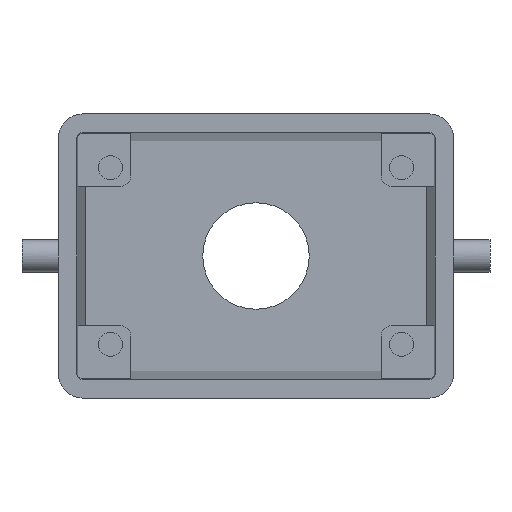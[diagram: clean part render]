
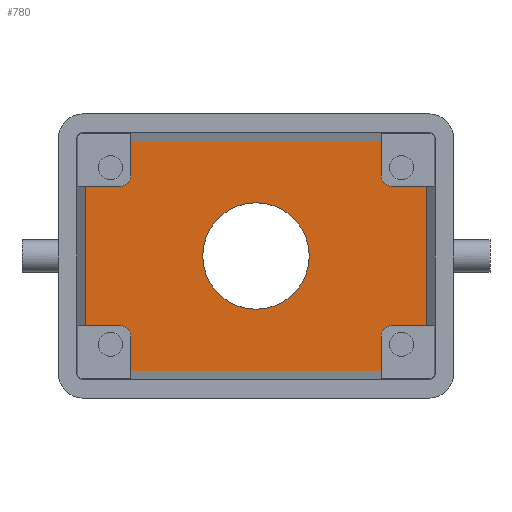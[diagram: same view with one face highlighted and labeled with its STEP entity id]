
A CAD part, front view. The second image highlights one B-rep face of the part: STEP entity #780.
In plain terms, the highlighted planar face has unit normal (0, -1, 0).
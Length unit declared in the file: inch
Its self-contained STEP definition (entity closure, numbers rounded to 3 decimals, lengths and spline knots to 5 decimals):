
#1 = VERTEX_POINT ( 'NONE', #2327 ) ;
#19 = VERTEX_POINT ( 'NONE', #2410 ) ;
#62 = EDGE_CURVE ( 'NONE', #1, #19, #1288, .T. ) ;
#437 = ORIENTED_EDGE ( 'NONE', *, *, #458, .T. ) ;
#438 = ORIENTED_EDGE ( 'NONE', *, *, #439, .F. ) ;
#439 = EDGE_CURVE ( 'NONE', #440, #456, #2748, .T. ) ;
#440 = VERTEX_POINT ( 'NONE', #2744 ) ;
#441 = ORIENTED_EDGE ( 'NONE', *, *, #442, .F. ) ;
#442 = EDGE_CURVE ( 'NONE', #443, #440, #2743, .T. ) ;
#443 = VERTEX_POINT ( 'NONE', #2738 ) ;
#444 = ORIENTED_EDGE ( 'NONE', *, *, #445, .F. ) ;
#445 = EDGE_CURVE ( 'NONE', #572, #443, #2736, .T. ) ;
#446 = ORIENTED_EDGE ( 'NONE', *, *, #571, .T. ) ;
#456 = VERTEX_POINT ( 'NONE', #2749 ) ;
#458 = EDGE_CURVE ( 'NONE', #459, #456, #2750, .T. ) ;
#459 = VERTEX_POINT ( 'NONE', #2803 ) ;
#569 = VERTEX_POINT ( 'NONE', #5792 ) ;
#571 = EDGE_CURVE ( 'NONE', #572, #569, #5791, .T. ) ;
#572 = VERTEX_POINT ( 'NONE', #5833 ) ;
#585 = EDGE_LOOP ( 'NONE', ( #586, #587 ) ) ;
#586 = ORIENTED_EDGE ( 'NONE', *, *, #62, .F. ) ;
#587 = ORIENTED_EDGE ( 'NONE', *, *, #745, .F. ) ;
#709 = VERTEX_POINT ( 'NONE', #3500 ) ;
#710 = ORIENTED_EDGE ( 'NONE', *, *, #748, .F. ) ;
#721 = EDGE_CURVE ( 'NONE', #722, #753, #3561, .T. ) ;
#722 = VERTEX_POINT ( 'NONE', #3553 ) ;
#723 = EDGE_CURVE ( 'NONE', #835, #769, #3519, .T. ) ;
#724 = ORIENTED_EDGE ( 'NONE', *, *, #834, .T. ) ;
#725 = ORIENTED_EDGE ( 'NONE', *, *, #726, .F. ) ;
#726 = EDGE_CURVE ( 'NONE', #760, #836, #3515, .T. ) ;
#727 = ORIENTED_EDGE ( 'NONE', *, *, #728, .F. ) ;
#728 = EDGE_CURVE ( 'NONE', #729, #569, #3626, .T. ) ;
#729 = VERTEX_POINT ( 'NONE', #3696 ) ;
#737 = EDGE_CURVE ( 'NONE', #738, #760, #3560, .T. ) ;
#738 = VERTEX_POINT ( 'NONE', #3555 ) ;
#743 = ORIENTED_EDGE ( 'NONE', *, *, #751, .T. ) ;
#744 = ORIENTED_EDGE ( 'NONE', *, *, #721, .F. ) ;
#745 = EDGE_CURVE ( 'NONE', #19, #1, #3547, .T. ) ;
#746 = ORIENTED_EDGE ( 'NONE', *, *, #747, .F. ) ;
#747 = EDGE_CURVE ( 'NONE', #752, #738, #3542, .T. ) ;
#748 = EDGE_CURVE ( 'NONE', #459, #709, #3538, .T. ) ;
#751 = EDGE_CURVE ( 'NONE', #752, #753, #3571, .T. ) ;
#752 = VERTEX_POINT ( 'NONE', #3567 ) ;
#753 = VERTEX_POINT ( 'NONE', #3566 ) ;
#760 = VERTEX_POINT ( 'NONE', #3656 ) ;
#761 = ORIENTED_EDGE ( 'NONE', *, *, #737, .F. ) ;
#767 = ORIENTED_EDGE ( 'NONE', *, *, #768, .F. ) ;
#768 = EDGE_CURVE ( 'NONE', #769, #729, #3651, .T. ) ;
#769 = VERTEX_POINT ( 'NONE', #3646 ) ;
#770 = ORIENTED_EDGE ( 'NONE', *, *, #723, .F. ) ;
#780 = ADVANCED_FACE ( 'NONE', ( #3536, #3535 ), #3576, .T. ) ;
#781 = EDGE_LOOP ( 'NONE', ( #727, #767, #770, #724, #725, #761, #746, #743, #744, #856, #710, #437, #438, #441, #444, #446 ) ) ;
#834 = EDGE_CURVE ( 'NONE', #835, #836, #3756, .T. ) ;
#835 = VERTEX_POINT ( 'NONE', #4046 ) ;
#836 = VERTEX_POINT ( 'NONE', #4045 ) ;
#856 = ORIENTED_EDGE ( 'NONE', *, *, #857, .F. ) ;
#857 = EDGE_CURVE ( 'NONE', #709, #722, #4101, .T. ) ;
#1203 = DIRECTION ( 'NONE',  ( 0., 0., -1. ) ) ;
#1204 = DIRECTION ( 'NONE',  ( 0., -1., 0. ) ) ;
#1205 = CARTESIAN_POINT ( 'NONE',  ( 0., 1.44567, 0. ) ) ;
#1206 = AXIS2_PLACEMENT_3D ( 'NONE', #1205, #1204, #1203 ) ;
#1288 = CIRCLE ( 'NONE', #1206, 0.32 ) ;
#2327 = CARTESIAN_POINT ( 'NONE',  ( 0., 1.44567, 0.32 ) ) ;
#2410 = CARTESIAN_POINT ( 'NONE',  ( 0., 1.44567, -0.32 ) ) ;
#2733 = DIRECTION ( 'NONE',  ( 1., 0., 0. ) ) ;
#2734 = VECTOR ( 'NONE', #2733, 39.37008 ) ;
#2735 = CARTESIAN_POINT ( 'NONE',  ( -1.039, 1.44567, 0.419 ) ) ;
#2736 = LINE ( 'NONE', #2735, #2734 ) ;
#2738 = CARTESIAN_POINT ( 'NONE',  ( -0.8155, 1.44567, 0.419 ) ) ;
#2739 = DIRECTION ( 'NONE',  ( 0., 0., 1. ) ) ;
#2740 = DIRECTION ( 'NONE',  ( 0., -1., 0. ) ) ;
#2741 = CARTESIAN_POINT ( 'NONE',  ( -0.8155, 1.44567, 0.4815 ) ) ;
#2742 = AXIS2_PLACEMENT_3D ( 'NONE', #2741, #2740, #2739 ) ;
#2743 = CIRCLE ( 'NONE', #2742, 0.0625 ) ;
#2744 = CARTESIAN_POINT ( 'NONE',  ( -0.753, 1.44567, 0.4815 ) ) ;
#2745 = DIRECTION ( 'NONE',  ( 0., 0., 1. ) ) ;
#2746 = VECTOR ( 'NONE', #2745, 39.37008 ) ;
#2747 = CARTESIAN_POINT ( 'NONE',  ( -0.753, 1.44567, 0.744 ) ) ;
#2748 = LINE ( 'NONE', #2747, #2746 ) ;
#2749 = CARTESIAN_POINT ( 'NONE',  ( -0.753, 1.44567, 0.69352 ) ) ;
#2750 = LINE ( 'NONE', #2806, #2805 ) ;
#2803 = CARTESIAN_POINT ( 'NONE',  ( 0.753, 1.44567, 0.69352 ) ) ;
#2804 = DIRECTION ( 'NONE',  ( -1., 0., 0. ) ) ;
#2805 = VECTOR ( 'NONE', #2804, 39.37008 ) ;
#2806 = CARTESIAN_POINT ( 'NONE',  ( -1.039, 1.44567, 0.69352 ) ) ;
#3500 = CARTESIAN_POINT ( 'NONE',  ( 0.753, 1.44567, 0.4815 ) ) ;
#3512 = DIRECTION ( 'NONE',  ( 0., 0., -1. ) ) ;
#3513 = VECTOR ( 'NONE', #3512, 39.37008 ) ;
#3514 = CARTESIAN_POINT ( 'NONE',  ( 0.753, 1.44567, -0.744 ) ) ;
#3515 = LINE ( 'NONE', #3514, #3513 ) ;
#3516 = DIRECTION ( 'NONE',  ( 0., 0., 1. ) ) ;
#3517 = VECTOR ( 'NONE', #3516, 39.37008 ) ;
#3518 = CARTESIAN_POINT ( 'NONE',  ( -0.753, 1.44567, -0.705 ) ) ;
#3519 = LINE ( 'NONE', #3518, #3517 ) ;
#3535 = FACE_BOUND ( 'NONE', #585, .T. ) ;
#3536 = FACE_OUTER_BOUND ( 'NONE', #781, .T. ) ;
#3538 = LINE ( 'NONE', #3574, #3573 ) ;
#3539 = DIRECTION ( 'NONE',  ( -1., 0., 0. ) ) ;
#3540 = VECTOR ( 'NONE', #3539, 39.37008 ) ;
#3541 = CARTESIAN_POINT ( 'NONE',  ( -1.039, 1.44567, -0.419 ) ) ;
#3542 = LINE ( 'NONE', #3541, #3540 ) ;
#3543 = DIRECTION ( 'NONE',  ( 0., 0., -1. ) ) ;
#3544 = DIRECTION ( 'NONE',  ( 0., -1., 0. ) ) ;
#3545 = CARTESIAN_POINT ( 'NONE',  ( 0., 1.44567, 0. ) ) ;
#3546 = AXIS2_PLACEMENT_3D ( 'NONE', #3545, #3544, #3543 ) ;
#3547 = CIRCLE ( 'NONE', #3546, 0.32 ) ;
#3553 = CARTESIAN_POINT ( 'NONE',  ( 0.8155, 1.44567, 0.419 ) ) ;
#3554 = DIRECTION ( 'NONE',  ( 1., 0., 0. ) ) ;
#3555 = CARTESIAN_POINT ( 'NONE',  ( 0.8155, 1.44567, -0.419 ) ) ;
#3556 = DIRECTION ( 'NONE',  ( 0., 0., 1. ) ) ;
#3557 = DIRECTION ( 'NONE',  ( 0., -1., 0. ) ) ;
#3558 = CARTESIAN_POINT ( 'NONE',  ( 0.8155, 1.44567, -0.4815 ) ) ;
#3559 = AXIS2_PLACEMENT_3D ( 'NONE', #3558, #3557, #3556 ) ;
#3560 = CIRCLE ( 'NONE', #3559, 0.0625 ) ;
#3561 = LINE ( 'NONE', #3581, #3580 ) ;
#3566 = CARTESIAN_POINT ( 'NONE',  ( 1.02752, 1.44567, 0.419 ) ) ;
#3567 = CARTESIAN_POINT ( 'NONE',  ( 1.02752, 1.44567, -0.419 ) ) ;
#3568 = DIRECTION ( 'NONE',  ( 0., 0., 1. ) ) ;
#3569 = VECTOR ( 'NONE', #3568, 39.37008 ) ;
#3570 = CARTESIAN_POINT ( 'NONE',  ( 1.02752, 1.44567, -0.705 ) ) ;
#3571 = LINE ( 'NONE', #3570, #3569 ) ;
#3572 = DIRECTION ( 'NONE',  ( 0., 0., -1. ) ) ;
#3573 = VECTOR ( 'NONE', #3572, 39.37008 ) ;
#3574 = CARTESIAN_POINT ( 'NONE',  ( 0.753, 1.44567, -0.705 ) ) ;
#3575 = AXIS2_PLACEMENT_3D ( 'NONE', #3686, #3685, #3684 ) ;
#3576 = PLANE ( 'NONE',  #3575 ) ;
#3580 = VECTOR ( 'NONE', #3554, 39.37008 ) ;
#3581 = CARTESIAN_POINT ( 'NONE',  ( 0.8155, 1.44567, 0.419 ) ) ;
#3623 = DIRECTION ( 'NONE',  ( -1., 0., 0. ) ) ;
#3624 = VECTOR ( 'NONE', #3623, 39.37008 ) ;
#3625 = CARTESIAN_POINT ( 'NONE',  ( -0.8155, 1.44567, -0.419 ) ) ;
#3626 = LINE ( 'NONE', #3625, #3624 ) ;
#3646 = CARTESIAN_POINT ( 'NONE',  ( -0.753, 1.44567, -0.4815 ) ) ;
#3647 = DIRECTION ( 'NONE',  ( 0., 0., -1. ) ) ;
#3648 = DIRECTION ( 'NONE',  ( 0., -1., 0. ) ) ;
#3649 = CARTESIAN_POINT ( 'NONE',  ( -0.8155, 1.44567, -0.4815 ) ) ;
#3650 = AXIS2_PLACEMENT_3D ( 'NONE', #3649, #3648, #3647 ) ;
#3651 = CIRCLE ( 'NONE', #3650, 0.0625 ) ;
#3656 = CARTESIAN_POINT ( 'NONE',  ( 0.753, 1.44567, -0.4815 ) ) ;
#3684 = DIRECTION ( 'NONE',  ( 0., 0., -1. ) ) ;
#3685 = DIRECTION ( 'NONE',  ( 0., -1., 0. ) ) ;
#3686 = CARTESIAN_POINT ( 'NONE',  ( -1.039, 1.44567, -0.705 ) ) ;
#3696 = CARTESIAN_POINT ( 'NONE',  ( -0.8155, 1.44567, -0.419 ) ) ;
#3750 = DIRECTION ( 'NONE',  ( 1., 0., 0. ) ) ;
#3751 = VECTOR ( 'NONE', #3750, 39.37008 ) ;
#3752 = CARTESIAN_POINT ( 'NONE',  ( -1.039, 1.44567, -0.69352 ) ) ;
#3756 = LINE ( 'NONE', #3752, #3751 ) ;
#4045 = CARTESIAN_POINT ( 'NONE',  ( 0.753, 1.44567, -0.69352 ) ) ;
#4046 = CARTESIAN_POINT ( 'NONE',  ( -0.753, 1.44567, -0.69352 ) ) ;
#4093 = DIRECTION ( 'NONE',  ( 0., 0., -1. ) ) ;
#4094 = DIRECTION ( 'NONE',  ( 0., -1., 0. ) ) ;
#4095 = CARTESIAN_POINT ( 'NONE',  ( 0.8155, 1.44567, 0.4815 ) ) ;
#4096 = AXIS2_PLACEMENT_3D ( 'NONE', #4095, #4094, #4093 ) ;
#4101 = CIRCLE ( 'NONE', #4096, 0.0625 ) ;
#5790 = CARTESIAN_POINT ( 'NONE',  ( -1.02752, 1.44567, -0.705 ) ) ;
#5791 = LINE ( 'NONE', #5790, #5835 ) ;
#5792 = CARTESIAN_POINT ( 'NONE',  ( -1.02752, 1.44567, -0.419 ) ) ;
#5833 = CARTESIAN_POINT ( 'NONE',  ( -1.02752, 1.44567, 0.419 ) ) ;
#5834 = DIRECTION ( 'NONE',  ( 0., 0., -1. ) ) ;
#5835 = VECTOR ( 'NONE', #5834, 39.37008 ) ;
